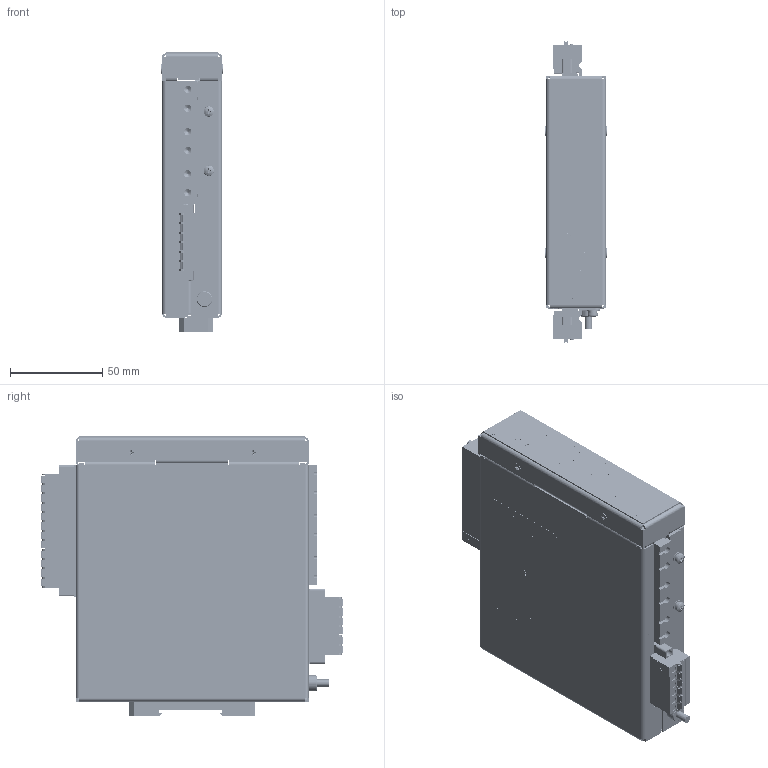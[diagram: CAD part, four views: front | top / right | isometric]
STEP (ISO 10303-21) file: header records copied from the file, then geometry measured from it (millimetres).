
FILE_DESCRIPTION(('STEP AP214'), '1');
FILE_NAME('ﾒﾐﾁﾍ.656112.002 - ﾊﾈﾒ-ﾇﾄﾇ', '', ('UNSPECIFIED'), ('UNSPECIFIED'), 'C3D Converter', 'C3D Toolkit', '');
FILE_SCHEMA(('AUTOMOTIVE_DESIGN { 1 0 10303 214 3 1 1}'));
Length unit declared in the file: millimetre
Products named in the file (45): ТРБН.656112.002; ТРБН.745535.002; ТРБН.301739.001; ТРБН.745535.003; ТРБН.301261.002; ТРБН.745513.001; ЮПИЯ.713361.002-16; ТРБН.741136.001; ТРБН.434416.028; ТРБН.754342.009-01; ТРБН.754342.010; ТРБН.434416.029; ТРБН.754342.001-01; ТРБН.754342.010-01; ТРБН.754342.006; ТРБН.754312.002; XM3; 691317510012; 6913175100xx_PIN; 6913175100xx_INSERT; XM4; 691317510006
Assembly tree (80 placements, depth 4):
  ТРБН.656112.002
    ТРБН.745535.002
    ТРБН.301739.001
      ТРБН.745535.003
      (unnamed)  x3
      (unnamed)
      (unnamed)  x2
      (unnamed)  x2
    ТРБН.301261.002
      ТРБН.745513.001
      (unnamed)  x2
      (unnamed)  x2
      ЮПИЯ.713361.002-16
    ТРБН.741136.001
    (unnamed)
      (unnamed)
      (unnamed)
    (unnamed)  x4
    ТРБН.434416.028
      (unnamed)
      ТРБН.754342.009-01
      ТРБН.754342.010
    ТРБН.434416.029
      (unnamed)
      ТРБН.754342.001-01
      ТРБН.754342.010-01
    (unnamed)
    (unnamed)
    ТРБН.754342.006
    ТРБН.754312.002
    (unnamed)  x2
    (unnamed)  x2
    (unnamed)  x2
    (unnamed)  x2
    (unnamed)  x2
    (unnamed)  x2
    (unnamed)
    XM3
      691317510012
        6913175100xx_PIN  x12
        6913175100xx_INSERT
        6913175100xx_INSERT
        691317510012
    XM4
      691317510006
        6913175100xx_PIN  x6
        6913175100xx_INSERT
        6913175100xx_INSERT
        691317510006
    (unnamed)
Bounding box: 33.1 x 163.1 x 151.9 mm (x, y, z)
Volume: 110771.3 mm3; surface area: 171446 mm2
Topology: 71 solids, 71 shells, 21866 faces, 62936 edges, 41750 vertices
Faces by surface type: plane 13299, cylinder 4881, extrusion 3526, cone 81, torus 48, bspline 26, sphere 5
Full cylindrical faces by diameter (mm): 0.243 x8, 0.482 x8, 1.5 x1, 1.8 x5, 1.9 x1, 2.459 x8, 2.5 x4, 2.6 x8, 2.75 x18, 3 x16, 3.2 x4, 3.242 x1, 3.3 x18, 3.5 x9, 3.85 x4, 3.9 x6, 4 x27, 4.2 x16, 4.5 x1, 4.6 x4, 5 x8, 5.5 x4, 5.6 x6, 6 x4, 6.35 x8, 7.25 x1, 7.948 x1, 8 x1, 8.5 x3, 8.897 x1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
Entity records: 868503 total; most frequent: CARTESIAN_POINT 149483, ORIENTED_EDGE 122466, DIRECTION 102891, EDGE_CURVE 61233, VECTOR 47795, LINE 44269, VERTEX_POINT 40823, AXIS2_PLACEMENT_3D 27548
